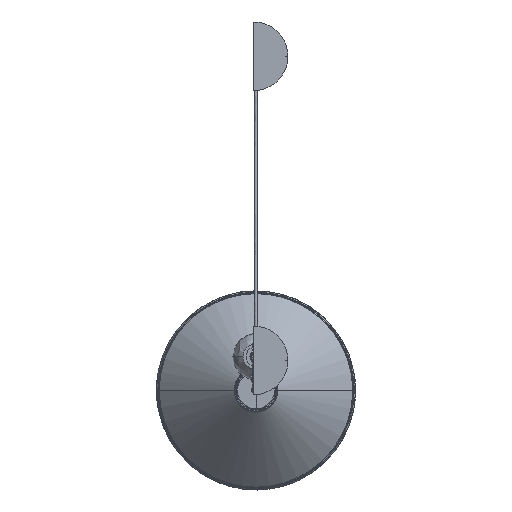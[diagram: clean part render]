
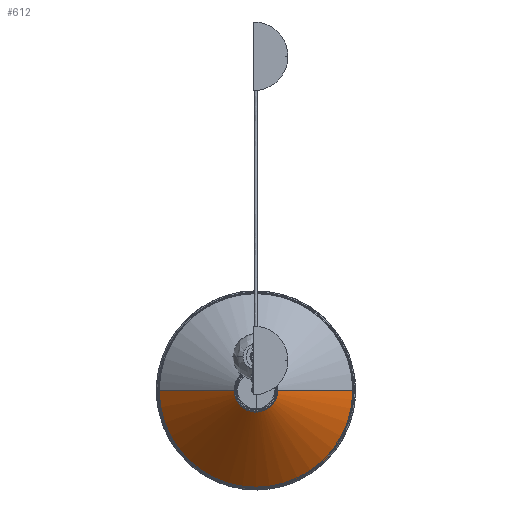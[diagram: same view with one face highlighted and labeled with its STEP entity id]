
A CAD part, top view. The second image highlights one B-rep face of the part: STEP entity #612.
In plain terms, the highlighted free-form (B-spline) face has degree [2, 1] with [5, 2] control points.
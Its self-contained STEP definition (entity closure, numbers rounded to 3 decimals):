
#612=ADVANCED_FACE('',(#782),#3195,.T.);
#782=FACE_OUTER_BOUND('',#964,.T.);
#964=EDGE_LOOP('',(#1564,#1565,#1566,#1567));
#1564=ORIENTED_EDGE('',*,*,#2108,.T.);
#1565=ORIENTED_EDGE('',*,*,#2107,.F.);
#1566=ORIENTED_EDGE('',*,*,#2109,.T.);
#1567=ORIENTED_EDGE('',*,*,#2105,.F.);
#2105=EDGE_CURVE('',#3081,#3082,#2633,.T.);
#2107=EDGE_CURVE('',#3083,#3080,#2635,.T.);
#2108=EDGE_CURVE('',#3081,#3080,#2636,.T.);
#2109=EDGE_CURVE('',#3083,#3082,#2637,.T.);
#2633=(
BOUNDED_CURVE()
B_SPLINE_CURVE(1,(#7450,#7451),.UNSPECIFIED.,.F.,.F.)
B_SPLINE_CURVE_WITH_KNOTS((2,2),(57.465,257.968),
 .UNSPECIFIED.)
CURVE()
GEOMETRIC_REPRESENTATION_ITEM()
RATIONAL_B_SPLINE_CURVE((1.,1.))
REPRESENTATION_ITEM('')
);
#2635=(
BOUNDED_CURVE()
B_SPLINE_CURVE(1,(#7457,#7458),.UNSPECIFIED.,.F.,.F.)
B_SPLINE_CURVE_WITH_KNOTS((2,2),(-257.968,-57.465),
 .UNSPECIFIED.)
CURVE()
GEOMETRIC_REPRESENTATION_ITEM()
RATIONAL_B_SPLINE_CURVE((1.,1.))
REPRESENTATION_ITEM('')
);
#2636=(
BOUNDED_CURVE()
B_SPLINE_CURVE(2,(#7459,#7460,#7461,#7462,#7463),.UNSPECIFIED.,.F.,.F.)
B_SPLINE_CURVE_WITH_KNOTS((3,2,3),(647.459,971.189,1294.919),
 .UNSPECIFIED.)
CURVE()
GEOMETRIC_REPRESENTATION_ITEM()
RATIONAL_B_SPLINE_CURVE((1.,0.707,1.,0.707,1.))
REPRESENTATION_ITEM('')
);
#2637=(
BOUNDED_CURVE()
B_SPLINE_CURVE(2,(#7464,#7465,#7466,#7467,#7468),.UNSPECIFIED.,.F.,.F.)
B_SPLINE_CURVE_WITH_KNOTS((3,2,3),(-1294.919,-971.189,
-647.459),.UNSPECIFIED.)
CURVE()
GEOMETRIC_REPRESENTATION_ITEM()
RATIONAL_B_SPLINE_CURVE((1.,0.707,1.,0.707,1.))
REPRESENTATION_ITEM('')
);
#3080=VERTEX_POINT('',#7441);
#3081=VERTEX_POINT('',#7442);
#3082=VERTEX_POINT('',#7443);
#3083=VERTEX_POINT('',#7444);
#3195=(
BOUNDED_SURFACE()
B_SPLINE_SURFACE(2,1,((#7431,#7432),(#7433,#7434),(#7435,#7436),(#7437,
#7438),(#7439,#7440)),.UNSPECIFIED.,.F.,.F.,.F.)
B_SPLINE_SURFACE_WITH_KNOTS((3,2,3),(2,2),(647.459,971.189,
1294.919),(57.465,257.968),.UNSPECIFIED.)
GEOMETRIC_REPRESENTATION_ITEM()
RATIONAL_B_SPLINE_SURFACE(((1.,1.),(0.707,0.707),
(1.,1.),(0.707,0.707),(1.,1.)))
REPRESENTATION_ITEM('')
SURFACE()
);
#7431=CARTESIAN_POINT('',(41.735,0.,143.358));
#7432=CARTESIAN_POINT('',(187.357,0.,5.531));
#7433=CARTESIAN_POINT('',(41.735,-41.735,143.358));
#7434=CARTESIAN_POINT('',(187.357,-187.357,5.531));
#7435=CARTESIAN_POINT('',(0.,-41.735,143.358));
#7436=CARTESIAN_POINT('',(0.,-187.357,5.531));
#7437=CARTESIAN_POINT('',(-41.735,-41.735,143.358));
#7438=CARTESIAN_POINT('',(-187.357,-187.357,5.531));
#7439=CARTESIAN_POINT('',(-41.735,0.,143.358));
#7440=CARTESIAN_POINT('',(-187.357,0.,5.531));
#7441=CARTESIAN_POINT('',(-41.735,0.,143.358));
#7442=CARTESIAN_POINT('',(41.735,0.,143.358));
#7443=CARTESIAN_POINT('',(187.357,0.,5.531));
#7444=CARTESIAN_POINT('',(-187.357,0.,5.531));
#7450=CARTESIAN_POINT('',(41.735,0.,143.358));
#7451=CARTESIAN_POINT('',(187.357,0.,5.531));
#7457=CARTESIAN_POINT('',(-187.357,0.,5.531));
#7458=CARTESIAN_POINT('',(-41.735,0.,143.358));
#7459=CARTESIAN_POINT('',(41.735,0.,143.358));
#7460=CARTESIAN_POINT('',(41.735,-41.735,143.358));
#7461=CARTESIAN_POINT('',(0.,-41.735,143.358));
#7462=CARTESIAN_POINT('',(-41.735,-41.735,143.358));
#7463=CARTESIAN_POINT('',(-41.735,0.,143.358));
#7464=CARTESIAN_POINT('',(-187.357,0.,5.531));
#7465=CARTESIAN_POINT('',(-187.357,-187.357,5.531));
#7466=CARTESIAN_POINT('',(0.,-187.357,5.531));
#7467=CARTESIAN_POINT('',(187.357,-187.357,5.531));
#7468=CARTESIAN_POINT('',(187.357,0.,5.531));
